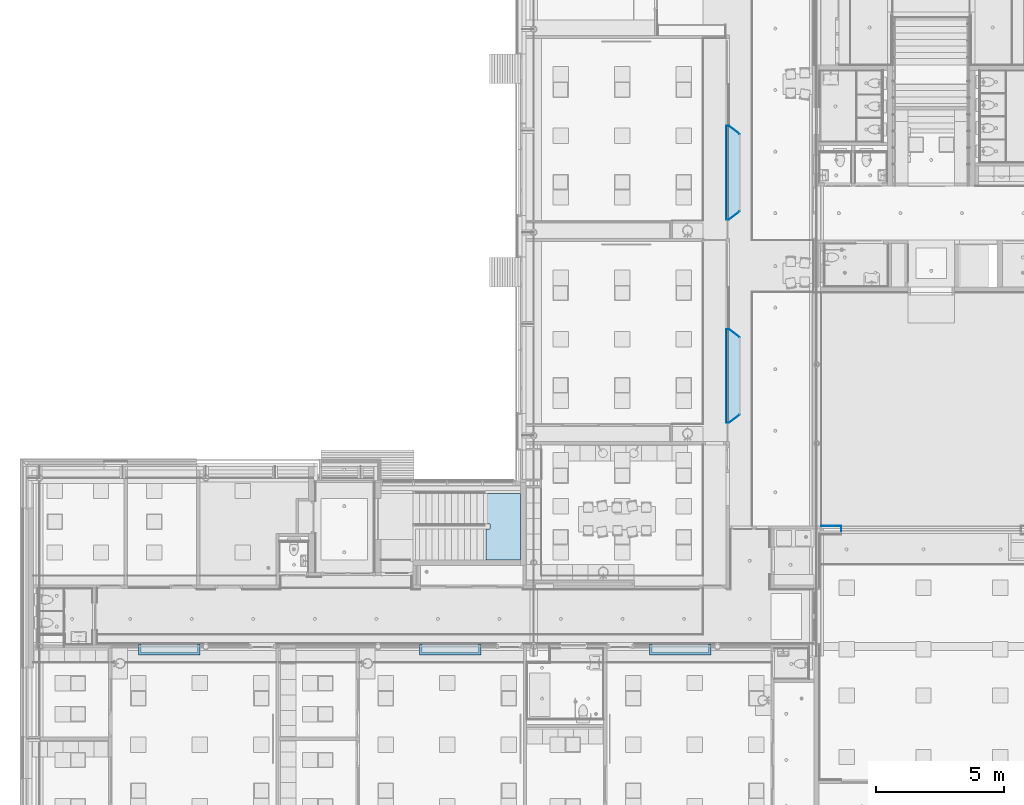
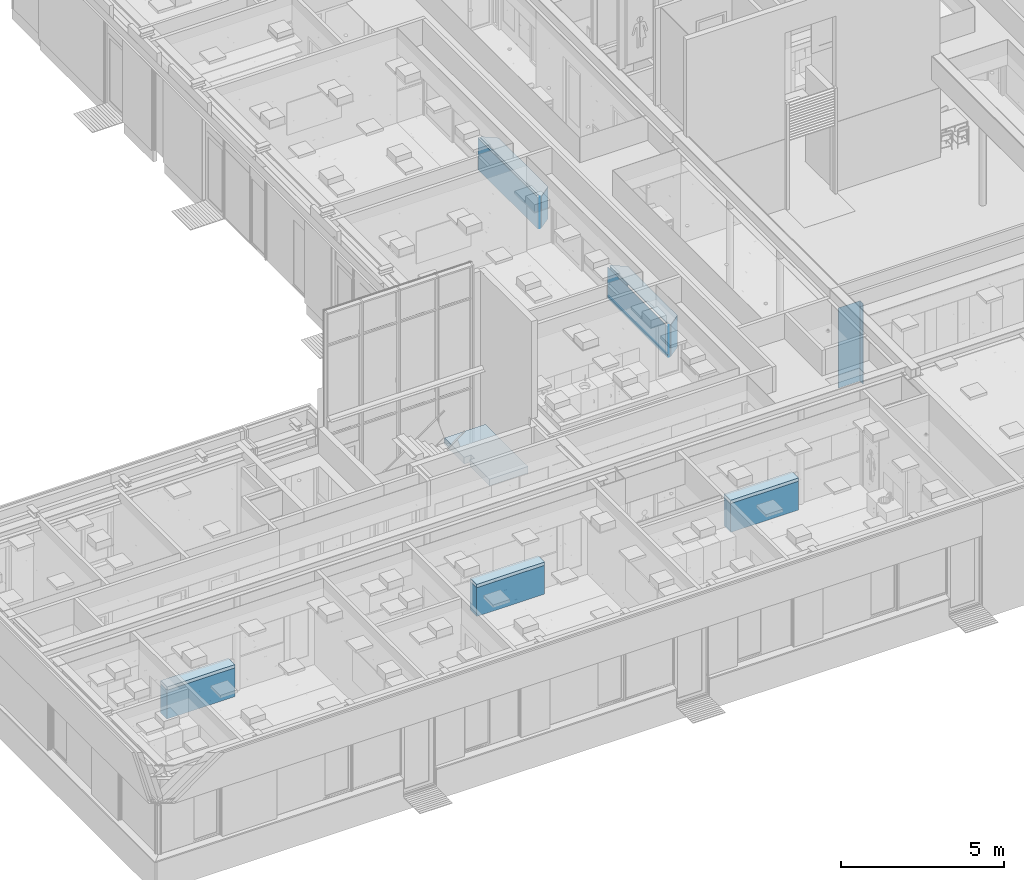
# One storey, part 37 of 347: 19 plates, 2 slabs, 1 element without a shape of its own.
"""IFC2X3 building model written with IfcOpenShell, lengths in millimetres."""

from ifc_helpers import new_model, entity, si_unit, converted_unit, derived_unit, money_unit, direction, frame, origin_with_axes, place, context, subcontext, project, spatial, faceted_brep, material, type_object, element, aggregate, save


model = new_model("IFC2X3")

# Units and contexts
model_context = context("Model", 3, precision=0.01, world=origin_with_axes(), true_north=direction((0.0, 1.0)))
plan_context = context("Plan", 3, precision=0.01, world=origin_with_axes(), true_north=direction((0.0, 1.0)))
body_context = subcontext(model_context, "Body", "Model", "MODEL_VIEW")
ifc_project = project(units=[si_unit("LENGTHUNIT", "METRE", prefix="MILLI"), si_unit("AREAUNIT", "SQUARE_METRE"), si_unit("VOLUMEUNIT", "CUBIC_METRE"), converted_unit("PLANEANGLEUNIT", "DEGREE", entity("IfcPlaneAngleMeasure", 0.0174532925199), si_unit("PLANEANGLEUNIT", "RADIAN"), dimensions=[0, 0, 0, 0, 0, 0, 0]), money_unit("EUR"), converted_unit("TIMEUNIT", "Year", entity("IfcTimeMeasure", 31556926.0), si_unit("TIMEUNIT", "SECOND"), dimensions=[0, 0, 1, 0, 0, 0, 0]), si_unit("MASSUNIT", "GRAM", prefix="KILO"), si_unit("THERMODYNAMICTEMPERATUREUNIT", "DEGREE_CELSIUS"), si_unit("LUMINOUSINTENSITYUNIT", "LUMEN"), si_unit("ENERGYUNIT", "JOULE", prefix="MEGA"), derived_unit("THERMALCONDUCTANCEUNIT", [(si_unit("POWERUNIT", "WATT"), 1), (si_unit("LENGTHUNIT", "METRE"), -1), (si_unit("THERMODYNAMICTEMPERATUREUNIT", "KELVIN"), -1)]), derived_unit("SPECIFICHEATCAPACITYUNIT", [(si_unit("ENERGYUNIT", "JOULE"), 1), (si_unit("MASSUNIT", "GRAM", prefix="KILO"), -1), (si_unit("THERMODYNAMICTEMPERATUREUNIT", "KELVIN"), -1)]), derived_unit("MASSDENSITYUNIT", [(si_unit("MASSUNIT", "GRAM", prefix="KILO"), 1), (si_unit("VOLUMEUNIT", "CUBIC_METRE"), -1)])], contexts=[model_context, plan_context])

# Site, building, storey
site_placement = place(None, origin_with_axes())
site = spatial("IfcSite", under=ifc_project, at=site_placement, Name="Site", CompositionType="ELEMENT")
building_placement = place(site_placement, origin_with_axes())
building = spatial("IfcBuilding", under=site, at=building_placement, Name="Naam gebouw", CompositionType="ELEMENT")
storey_placement = place(building_placement, origin_with_axes())
storey = spatial("IfcBuildingStorey", under=building, at=storey_placement, Name="begane grond", CompositionType="ELEMENT", Elevation=0.0)

# Plates
ifc_material_1 = material(Name="Hout - Lockers")
plate_type_1 = type_object("IfcPlateType", Name="Hout - Lockers 1175", PredefinedType="SHEET")
for number, where, z_axis, x_axis, name in (
    (1, (32087.0, 24505.5, 0.0), (0.0, 0.0, 1.0), (1.0, 0.0, 0.0), "72_72 vaste inrichting"),
    (2, (32087.0, 32430.5, 0.0), (0.0, 0.0, 1.0), (1.0, 0.0, 0.0), "72_72 vaste inrichting"),
):
    element("IfcPlate", number, at=place(storey_placement, frame(where, z_axis=z_axis, x_axis=x_axis)), inside=storey, type_object=plate_type_1, material=ifc_material_1, Name=name, ObjectType="SHEET", context=body_context, shape_type="Brep", body=[
        faceted_brep([(0.0, 0.0, 1175.0), (0.0, 0.0, 0.0), (-12.0, 0.0, 0.0), (-12.0, 0.0, 1175.0), (0.0, -3650.0, 1175.0), (0.0, -3650.0, 0.0), (92.5276958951, -3650.0, 0.0), (76.9506197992, -3662.0, 0.0), (-12.0, -3662.0, 0.0), (-12.0, -3662.0, 1175.0), (76.9506197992, -3662.0, 1175.0), (92.5276958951, -3650.0, 1175.0)], [[[0, 1, 2, 3]], [[4, 5, 1, 0]], [[2, 1, 5, 6, 7, 8]], [[3, 2, 8, 9]], [[4, 0, 3, 9, 10, 11]], [[11, 6, 5, 4]], [[10, 7, 6, 11]], [[9, 8, 7, 10]]]),
    ])
plate_1_placement = place(storey_placement, frame((32075.0, 24505.5, 0.0), z_axis=(0.0, 0.0, 1.0), x_axis=(1.0, 0.0, 0.0)))
element("IfcPlate", 3, at=plate_1_placement, inside=storey, type_object=plate_type_1, material=ifc_material_1, Name="72_72 vaste inrichting", ObjectType="SHEET", context=body_context, shape_type="Brep", body=[
    faceted_brep([(0.0, 0.0, 1175.0), (0.0, 0.0, 0.0), (0.0, -3560.0, 0.0), (0.0, -3560.0, 1175.0), (0.999999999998, 0.0, 1175.0), (0.999999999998, 0.0, 0.0), (0.999999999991, -3560.0, 0.0), (0.999999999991, -3560.0, 1175.0)], [[[0, 1, 2, 3]], [[4, 5, 1, 0]], [[2, 1, 5, 6]], [[3, 2, 6, 7]], [[4, 0, 3, 7]], [[7, 6, 5, 4]]]),
])
plate_type_2 = type_object("IfcPlateType", Name="Hout - Lockers 25", PredefinedType="SHEET")
plate_2_placement = place(storey_placement, frame((32075.0, 28870.5, 1200.0), z_axis=(0.0, 0.0, 1.0), x_axis=(1.0, 0.0, 0.0)))
element("IfcPlate", 4, at=plate_2_placement, inside=storey, type_object=plate_type_2, material=ifc_material_1, Name="72_72 vaste inrichting", ObjectType="SHEET", context=body_context, shape_type="Brep", body=[
    faceted_brep([(0.0, 0.0, 0.0), (0.0, 0.0, -25.0), (52.5, 0.0, -25.0), (52.5, 0.0, 0.0), (0.0, 3560.0, 0.0), (0.0, 3560.0, -25.0), (52.5, 3560.0, -25.0), (52.5, 3560.0, 0.0)], [[[0, 1, 2, 3]], [[4, 5, 1, 0]], [[2, 1, 5, 6]], [[3, 2, 6, 7]], [[4, 0, 3, 7]], [[7, 6, 5, 4]]]),
])

# Slab
ifc_material_2 = material(Name="Beton gewapend C")
slab_type_1 = type_object("IfcSlabType", Name="Beton gewapend C 60", PredefinedType="NOTDEFINED")
slab_1_placement = place(storey_placement, frame((32075.0, 20843.5, 60.0), z_axis=(0.0, 0.0, 1.0), x_axis=(1.0, 0.0, 0.0)))
element("IfcSlab", 5, at=slab_1_placement, inside=storey, type_object=slab_type_1, material=ifc_material_2, Name="23_72 vaste inrichting", PredefinedType="NOTDEFINED", context=body_context, shape_type="Brep", body=[
    faceted_brep([(0.0, 0.0, 60.0), (0.0, 0.0, 0.0), (52.5, 0.0, 0.0), (52.5, 0.0, 60.0), (0.0, 3662.0, 60.0), (0.0, 3662.0, 0.0), (52.5, 3662.0, 0.0), (52.5, 3662.0, 60.0)], [[[0, 1, 2, 3]], [[4, 5, 1, 0]], [[2, 1, 5, 6]], [[3, 2, 6, 7]], [[4, 0, 3, 7]], [[7, 6, 5, 4]]]),
])

# Stair, slab
stair_placement = place(storey_placement, frame((20115.0, 16900.0, 0.0), z_axis=(0.0, 0.0, 1.0), x_axis=(1.0, 0.0, 0.0)))
stair = element("IfcStair", 6, at=stair_placement, inside=storey, Name="24_Trap-x", ShapeType="NOTDEFINED")
ifc_material_3 = material(Name="Beton gewapend prefab")
slab_type_2 = type_object("IfcSlabType", Name="IfcSlab", PredefinedType="LANDING")
slab_2_placement = place(stair_placement, origin_with_axes())
slab_2 = element("IfcSlab", 7, at=slab_2_placement, type_object=slab_type_2, material=ifc_material_3, Name="24_Trapconstructie-x", PredefinedType="LANDING", context=body_context, shape_type="Brep", body=[
    faceted_brep([(2590.50685888, -200.000006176, 1730.0), (2590.50685888, -200.000006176, 1980.0), (2750.0, -200.000006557, 1980.0), (2750.0, -200.000006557, 1730.0), (2590.50685602, -1400.00000618, 1980.0), (2590.50685602, -1400.00000618, 1730.0), (3950.0, -1400.00000942, 1980.0), (3950.0, 1200.0, 1980.0), (2500.0, 1200.0, 1980.0), (2500.0, 0.0, 1980.0), (2750.0, 0.0, 1980.0), (2750.0, 0.0, 1730.0), (2500.0, 0.0, 1730.0), (2500.0, 1200.0, 1730.0), (3950.0, 1200.0, 1730.0), (3950.0, -1400.00000942, 1730.0)], [[[0, 1, 2, 3]], [[4, 1, 0, 5]], [[1, 4, 6, 7, 8, 9, 10, 2]], [[10, 11, 3, 2]], [[5, 0, 3, 11, 12, 13, 14, 15]], [[4, 5, 15, 6]], [[6, 15, 14, 7]], [[7, 14, 13, 8]], [[8, 13, 12, 9]], [[9, 12, 11, 10]]]),
])
aggregate(stair, [slab_2])

# Plates
ifc_material_4 = material(Name="ALG - LICHTE SCHEIDINGSWAND - master")
plate_type_3 = type_object("IfcPlateType", Name="ALG - LICHTE SCHEIDINGSWAND - master 3000", PredefinedType="SHEET")
plate_3_placement = place(storey_placement, frame((36575.0, 16825.0000022, 0.0), z_axis=(0.0, 0.0, 1.0), x_axis=(1.0, 0.0, 0.0)))
element("IfcPlate", 8, at=plate_3_placement, inside=storey, type_object=plate_type_3, material=ifc_material_4, Name="72_72 vaste inrichting", ObjectType="SHEET", context=body_context, shape_type="Brep", body=[
    faceted_brep([(0.0, 0.0, 3000.0), (0.0, 0.0, 0.0), (-779.999890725, 0.0, 0.0), (-779.999890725, 0.0, 3000.0), (0.0, -199.999941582, 3000.0), (0.0, -199.999941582, 0.0), (-12.5, -199.999941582, 0.0), (-12.5, -12.5, 0.0), (-779.999890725, -12.5, 0.0), (-779.999890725, -12.5, 3000.0), (-12.5, -12.5, 3000.0), (-12.5, -199.999941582, 3000.0)], [[[0, 1, 2, 3]], [[4, 5, 1, 0]], [[2, 1, 5, 6, 7, 8]], [[3, 2, 8, 9]], [[4, 0, 3, 9, 10, 11]], [[11, 6, 5, 4]], [[10, 7, 6, 11]], [[9, 8, 7, 10]]]),
])
plate_type_4 = type_object("IfcPlateType", Name="Hout - Lockers 125", PredefinedType="SHEET")
for number, where, z_axis, x_axis, name in (
    (9, (31489.0, 11794.5, 1200.0), (0.0, 0.0, 1.0), (1.0, 0.0, 0.0), "72_72 vaste inrichting"),
    (10, (22511.0, 11794.5, 1200.0), (0.0, 0.0, 1.0), (1.0, 0.0, 0.0), "72_72 vaste inrichting"),
    (11, (11565.0, 11794.5, 1200.0), (0.0, 0.0, 1.0), (1.0, 0.0, 0.0), "72_72 vaste inrichting"),
):
    element("IfcPlate", number, at=place(storey_placement, frame(where, z_axis=z_axis, x_axis=x_axis)), inside=storey, type_object=plate_type_4, material=ifc_material_1, Name=name, ObjectType="SHEET", context=body_context, shape_type="Brep", body=[
        faceted_brep([(0.0, 0.0, 0.0), (0.0, 0.0, -125.0), (0.0, 400.0, -125.0), (0.0, 400.0, 0.0), (-2400.0, 0.0, 0.0), (-2400.0, 0.0, -125.0), (-2400.0, 400.0, -125.0), (-2400.0, 400.0, 0.0)], [[[0, 1, 2, 3]], [[4, 5, 1, 0]], [[2, 1, 5, 6]], [[3, 2, 6, 7]], [[4, 0, 3, 7]], [[7, 6, 5, 4]]]),
    ])
plate_type_5 = type_object("IfcPlateType", Name="Hout - Lockers 1075", PredefinedType="SHEET")
plate_4_placement = place(storey_placement, frame((29088.9999969, 12194.5000565, 0.0), z_axis=(0.0, 0.0, 1.0), x_axis=(1.0, 0.0, 0.0)))
element("IfcPlate", 12, at=plate_4_placement, inside=storey, type_object=plate_type_5, material=ifc_material_1, Name="72_72 vaste inrichting", ObjectType="SHEET", context=body_context, shape_type="Brep", body=[
    faceted_brep([(0.0, 0.0, 1075.0), (0.0, 0.0, 0.0), (0.0, -400.0000565, 0.0), (0.0, -400.0000565, 1075.0), (99.9999301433, 0.0, 1075.0), (99.9999301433, 0.0, 0.0), (99.9999301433, -300.000126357, 0.0), (2300.00007293, -300.000126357, 0.0), (2300.00007293, 0.0, 0.0), (2400.00000307, 0.0, 0.0), (2400.00000307, -400.0000565, 0.0), (2400.00000307, -400.0000565, 1075.0), (2400.00000307, 0.0, 1075.0), (2300.00007293, 0.0, 1075.0), (2300.00007293, -300.000126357, 1075.0), (99.9999301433, -300.000126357, 1075.0)], [[[0, 1, 2, 3]], [[4, 5, 1, 0]], [[2, 1, 5, 6, 7, 8, 9, 10]], [[3, 2, 10, 11]], [[4, 0, 3, 11, 12, 13, 14, 15]], [[15, 6, 5, 4]], [[14, 7, 6, 15]], [[13, 8, 7, 14]], [[12, 9, 8, 13]], [[11, 10, 9, 12]]]),
])
plate_5_placement = place(storey_placement, frame((20211.0, 12194.5, 0.0), z_axis=(0.0, 0.0, 1.0), x_axis=(1.0, 0.0, 0.0)))
element("IfcPlate", 13, at=plate_5_placement, inside=storey, type_object=plate_type_5, material=ifc_material_1, Name="72_72 vaste inrichting", ObjectType="SHEET", context=body_context, shape_type="Brep", body=[
    faceted_brep([(0.0, 0.0, 1075.0), (0.0, 0.0, 0.0), (-100.0, 0.0, 0.0), (-100.0, 0.0, 1075.0), (0.0, -300.0, 1075.0), (0.0, -300.0, 0.0), (2200.0, -300.0, 0.0), (2200.0, 0.0, 0.0), (2300.0, 0.0, 0.0), (2300.0, -400.0, 0.0), (-100.0, -400.0, 0.0), (-100.0, -400.0, 1075.0), (2300.0, -400.0, 1075.0), (2300.0, 0.0, 1075.0), (2200.0, 0.0, 1075.0), (2200.0, -300.0, 1075.0)], [[[0, 1, 2, 3]], [[4, 5, 1, 0]], [[2, 1, 5, 6, 7, 8, 9, 10]], [[3, 2, 10, 11]], [[4, 0, 3, 11, 12, 13, 14, 15]], [[15, 6, 5, 4]], [[14, 7, 6, 15]], [[13, 8, 7, 14]], [[12, 9, 8, 13]], [[11, 10, 9, 12]]]),
])
plate_6_placement = place(storey_placement, frame((9165.0, 11794.5, 0.0), z_axis=(0.0, 0.0, 1.0), x_axis=(1.0, 0.0, 0.0)))
element("IfcPlate", 14, at=plate_6_placement, inside=storey, type_object=plate_type_5, material=ifc_material_1, Name="72_72 vaste inrichting", ObjectType="SHEET", context=body_context, shape_type="Brep", body=[
    faceted_brep([(0.0, 0.0, 1075.0), (0.0, 0.0, 0.0), (2400.0, 0.0, 0.0), (2400.0, 0.0, 1075.0), (0.0, 400.0, 1075.0), (0.0, 400.0, 0.0), (100.0, 400.0, 0.0), (100.0, 100.0, 0.0), (2300.0, 100.0, 0.0), (2300.0, 400.0, 0.0), (2400.0, 400.0, 0.0), (2400.0, 400.0, 1075.0), (2300.0, 400.0, 1075.0), (2300.0, 100.0, 1075.0), (100.0, 100.0, 1075.0), (100.0, 400.0, 1075.0)], [[[0, 1, 2, 3]], [[4, 5, 1, 0]], [[2, 1, 5, 6, 7, 8, 9, 10]], [[3, 2, 10, 11]], [[4, 0, 3, 11, 12, 13, 14, 15]], [[15, 6, 5, 4]], [[14, 7, 6, 15]], [[13, 8, 7, 14]], [[12, 9, 8, 13]], [[11, 10, 9, 12]]]),
])
plate_type_6 = type_object("IfcPlateType", Name="Hout - Lockers 1178", PredefinedType="SHEET")
plate_7_placement = place(storey_placement, frame((32581.935495, 29090.5, 0.0), z_axis=(0.0, 0.0, 1.0), x_axis=(1.0, 0.0, 0.0)))
element("IfcPlate", 15, at=plate_7_placement, inside=storey, type_object=plate_type_6, material=ifc_material_1, Name="72_72 vaste inrichting", ObjectType="SHEET", context=body_context, shape_type="Brep", body=[
    faceted_brep([(0.0, 0.0, 1178.0), (0.0, 0.0, 0.0), (-417.984875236, -322.0, 0.0), (-417.984875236, -322.0, 1178.0), (36.0493802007, 0.0, 1178.0), (36.0493802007, 0.0, 0.0), (-381.935495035, -322.0, 0.0), (-381.935495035, -322.0, 1178.0)], [[[0, 1, 2, 3]], [[4, 5, 1, 0]], [[2, 1, 5, 6]], [[3, 2, 6, 7]], [[4, 0, 3, 7]], [[7, 6, 5, 4]]]),
])
plate_8_placement = place(storey_placement, frame((32581.9762635, 24183.5, 0.0), z_axis=(0.0, 0.0, 1.0), x_axis=(1.0, 0.0, 0.0)))
element("IfcPlate", 16, at=plate_8_placement, inside=storey, type_object=plate_type_6, material=ifc_material_1, Name="72_72 vaste inrichting", ObjectType="SHEET", context=body_context, shape_type="Brep", body=[
    faceted_brep([(0.0, 0.0, 1178.0), (0.0, 0.0, 0.0), (36.0517130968, 0.0, 0.0), (36.0517130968, 0.0, 1178.0), (-418.027976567, 322.0, 1178.0), (-418.027976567, 322.0, 0.0), (-381.97626347, 322.0, 0.0), (-381.97626347, 322.0, 1178.0)], [[[0, 1, 2, 3]], [[4, 5, 1, 0]], [[2, 1, 5, 6]], [[3, 2, 6, 7]], [[4, 0, 3, 7]], [[7, 6, 5, 4]]]),
])
plate_9_placement = place(storey_placement, frame((32581.935495, 21165.5, 0.0), z_axis=(0.0, 0.0, 1.0), x_axis=(1.0, 0.0, 0.0)))
element("IfcPlate", 17, at=plate_9_placement, inside=storey, type_object=plate_type_6, material=ifc_material_1, Name="72_72 vaste inrichting", ObjectType="SHEET", context=body_context, shape_type="Brep", body=[
    faceted_brep([(0.0, 0.0, 1178.0), (0.0, 0.0, 0.0), (-417.984875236, -322.0, 0.0), (-417.984875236, -322.0, 1178.0), (36.0493802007, 0.0, 1178.0), (36.0493802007, 0.0, 0.0), (-381.935495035, -322.0, 0.0), (-381.935495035, -322.0, 1178.0)], [[[0, 1, 2, 3]], [[4, 5, 1, 0]], [[2, 1, 5, 6]], [[3, 2, 6, 7]], [[4, 0, 3, 7]], [[7, 6, 5, 4]]]),
])
plate_10_placement = place(storey_placement, frame((32147.4815328, 20865.9505553, 0.0), z_axis=(0.0, 0.0, 1.0), x_axis=(1.0, 0.0, 0.0)))
element("IfcPlate", 18, at=plate_10_placement, inside=storey, type_object=plate_type_6, material=ifc_material_1, Name="72_72 vaste inrichting", ObjectType="SHEET", context=body_context, shape_type="Brep", body=[
    faceted_brep([(0.0, 0.0, 1178.0), (0.0, 0.0, 0.0), (-0.707708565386, -0.450555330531, 0.0), (-0.707708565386, -0.450555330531, 1178.0), (0.0, -0.450555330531, 1178.0), (0.0, -0.450555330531, 0.0)], [[[0, 1, 2, 3]], [[4, 5, 1, 0]], [[2, 1, 5]], [[3, 2, 5, 4]], [[4, 0, 3]]]),
])
plate_11_placement = place(storey_placement, frame((32581.9762635, 32108.5, 0.0), z_axis=(0.0, 0.0, 1.0), x_axis=(1.0, 0.0, 0.0)))
element("IfcPlate", 19, at=plate_11_placement, inside=storey, type_object=plate_type_6, material=ifc_material_1, Name="72_72 vaste inrichting", ObjectType="SHEET", context=body_context, shape_type="Brep", body=[
    faceted_brep([(0.0, 0.0, 1178.0), (0.0, 0.0, 0.0), (36.0517130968, 0.0, 0.0), (36.0517130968, 0.0, 1178.0), (-418.027976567, 322.0, 1178.0), (-418.027976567, 322.0, 0.0), (-381.97626347, 322.0, 0.0), (-381.97626347, 322.0, 1178.0)], [[[0, 1, 2, 3]], [[4, 5, 1, 0]], [[2, 1, 5, 6]], [[3, 2, 6, 7]], [[4, 0, 3, 7]], [[7, 6, 5, 4]]]),
])
plate_12_placement = place(storey_placement, frame((32147.4815328, 28790.9505553, 0.0), z_axis=(0.0, 0.0, 1.0), x_axis=(1.0, 0.0, 0.0)))
element("IfcPlate", 20, at=plate_12_placement, inside=storey, type_object=plate_type_6, material=ifc_material_1, Name="72_72 vaste inrichting", ObjectType="SHEET", context=body_context, shape_type="Brep", body=[
    faceted_brep([(0.0, 0.0, 1178.0), (0.0, 0.0, 0.0), (-0.707708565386, -0.450555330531, 0.0), (-0.707708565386, -0.450555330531, 1178.0), (0.0, -0.450555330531, 1178.0), (0.0, -0.450555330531, 0.0)], [[[0, 1, 2, 3]], [[4, 5, 1, 0]], [[2, 1, 5]], [[3, 2, 5, 4]], [[4, 0, 3]]]),
])
plate_type_7 = type_object("IfcPlateType", Name="Hout - Lockers 22", PredefinedType="SHEET")
plate_13_placement = place(storey_placement, frame((32147.1973159, 20843.5, 1200.0), z_axis=(0.0, 0.0, 1.0), x_axis=(1.0, 0.0, 0.0)))
element("IfcPlate", 21, at=plate_13_placement, inside=storey, type_object=plate_type_7, material=ifc_material_1, Name="72_72 vaste inrichting", ObjectType="SHEET", context=body_context, shape_type="Brep", body=[
    faceted_brep([(0.0, 0.0, 0.0), (0.0, 0.0, -22.0), (52.8026841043, 0.0, -22.0), (52.8026841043, 0.0, 0.0), (0.302684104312, 3662.0, 0.0), (0.302684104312, 3662.0, -22.0), (52.8026841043, 3662.0, -22.0), (470.830660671, 3340.0, -22.0), (470.78755934, 322.0, -22.0), (470.78755934, 322.0, 0.0), (470.830660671, 3340.0, 0.0), (52.8026841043, 3662.0, 0.0)], [[[0, 1, 2, 3]], [[4, 5, 1, 0]], [[2, 1, 5, 6, 7, 8]], [[3, 2, 8, 9]], [[4, 0, 3, 9, 10, 11]], [[11, 6, 5, 4]], [[10, 7, 6, 11]], [[9, 8, 7, 10]]]),
])
plate_14_placement = place(storey_placement, frame((32147.4973159, 28768.5, 1200.0), z_axis=(0.0, 0.0, 1.0), x_axis=(1.0, 0.0, 0.0)))
element("IfcPlate", 22, at=plate_14_placement, inside=storey, type_object=plate_type_7, material=ifc_material_1, Name="72_72 vaste inrichting", ObjectType="SHEET", context=body_context, shape_type="Brep", body=[
    faceted_brep([(0.0, 0.0, 0.0), (0.0, 0.0, -22.0), (52.5026841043, 0.0, -22.0), (52.5026841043, 0.0, 0.0), (0.00268410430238, 3662.0, 0.0), (0.00268410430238, 3662.0, -22.0), (52.5026841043, 3662.0, -22.0), (470.530660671, 3340.0, -22.0), (470.48755934, 322.0, -22.0), (470.48755934, 322.0, 0.0), (470.530660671, 3340.0, 0.0), (52.5026841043, 3662.0, 0.0)], [[[0, 1, 2, 3]], [[4, 5, 1, 0]], [[2, 1, 5, 6, 7, 8]], [[3, 2, 8, 9]], [[4, 0, 3, 9, 10, 11]], [[11, 6, 5, 4]], [[10, 7, 6, 11]], [[9, 8, 7, 10]]]),
])

save(model, "model.ifc")
